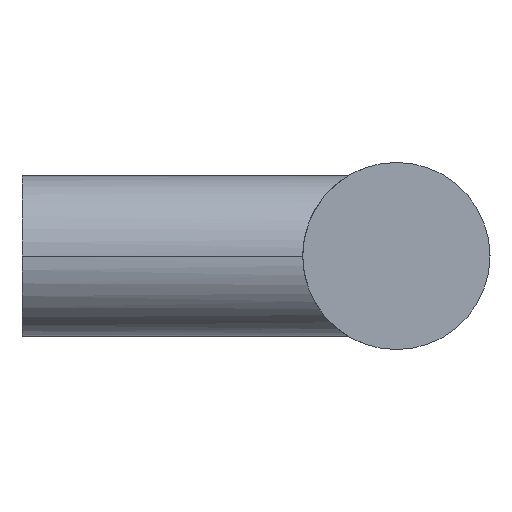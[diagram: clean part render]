
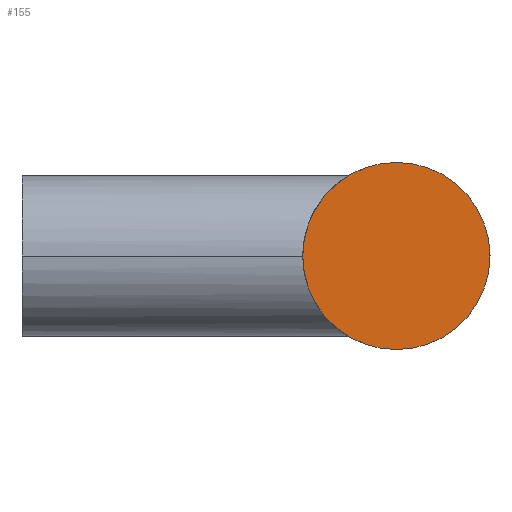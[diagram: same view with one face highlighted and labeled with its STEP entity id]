
A CAD part, left-side view. The second image highlights one B-rep face of the part: STEP entity #155.
In plain terms, the highlighted planar face has unit normal (-1, 0, 0).
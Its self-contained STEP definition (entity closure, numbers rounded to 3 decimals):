
#149 = VERTEX_POINT( '', #316 );
#155 = ADVANCED_FACE( '', ( #322 ), #323, .F. );
#189 = EDGE_CURVE( '', #225, #149, #360, .T. );
#223 = EDGE_CURVE( '', #149, #225, #398, .T. );
#225 = VERTEX_POINT( '', #400 );
#316 = CARTESIAN_POINT( '', ( -30., -28., 7. ) );
#322 = FACE_OUTER_BOUND( '', #572, .T. );
#323 = PLANE( '', #573 );
#360 = CIRCLE( '', #694, 7. );
#398 = CIRCLE( '', #739, 7. );
#400 = CARTESIAN_POINT( '', ( -30., -28., -7. ) );
#572 = EDGE_LOOP( '', ( #841, #842 ) );
#573 = AXIS2_PLACEMENT_3D( '', #843, #844, #845 );
#694 = AXIS2_PLACEMENT_3D( '', #879, #880, #881 );
#739 = AXIS2_PLACEMENT_3D( '', #925, #926, #927 );
#841 = ORIENTED_EDGE( '', *, *, #189, .F. );
#842 = ORIENTED_EDGE( '', *, *, #223, .F. );
#843 = CARTESIAN_POINT( '', ( -30., 0., 0. ) );
#844 = DIRECTION( '', ( 1., 0., 0. ) );
#845 = DIRECTION( '', ( 0., 0., -1. ) );
#879 = CARTESIAN_POINT( '', ( -30., -28., 0. ) );
#880 = DIRECTION( '', ( 1., 0., 0. ) );
#881 = DIRECTION( '', ( 0., 0., -1. ) );
#925 = CARTESIAN_POINT( '', ( -30., -28., 0. ) );
#926 = DIRECTION( '', ( 1., 0., 0. ) );
#927 = DIRECTION( '', ( 0., 0., -1. ) );
